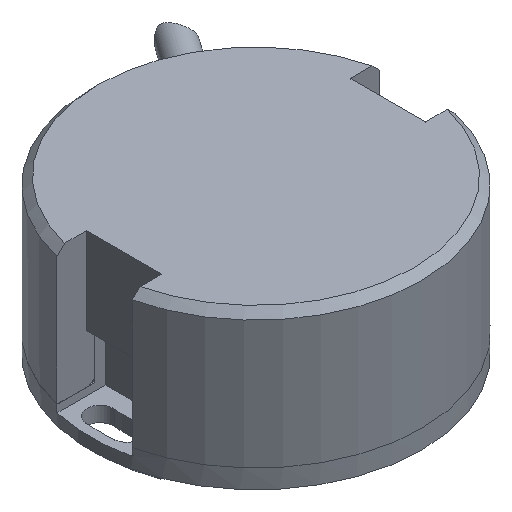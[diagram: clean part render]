
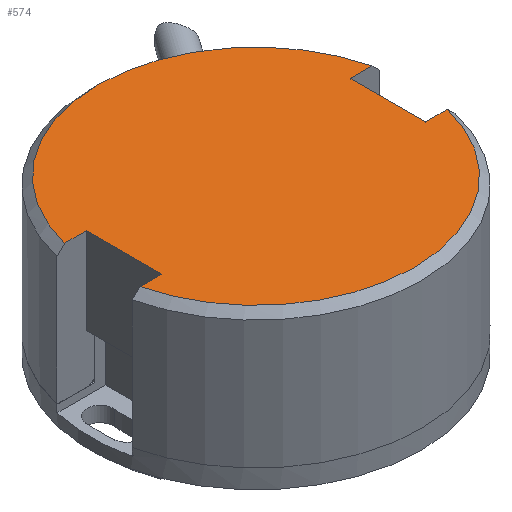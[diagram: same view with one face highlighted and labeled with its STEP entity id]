
A CAD part, isometric view. The second image highlights one B-rep face of the part: STEP entity #574.
In plain terms, the highlighted planar face has unit normal (0, 0, 1) as drawn and (-1, 0, 0) by its records, which use the part's own axes.
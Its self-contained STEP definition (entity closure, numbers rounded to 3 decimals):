
#574=ADVANCED_FACE('',(#1046),#1047,.T.);
#1046=FACE_OUTER_BOUND('',#1546,.T.);
#1047=PLANE('',#1547);
#1546=EDGE_LOOP('',(#2451,#2452,#2453,#2454,#2455,#2456,#2457,#2458));
#1547=AXIS2_PLACEMENT_3D('',#2459,#2460,#2461);
#2451=ORIENTED_EDGE('',*,*,#3327,.F.);
#2452=ORIENTED_EDGE('',*,*,#3328,.T.);
#2453=ORIENTED_EDGE('',*,*,#3329,.F.);
#2454=ORIENTED_EDGE('',*,*,#3330,.F.);
#2455=ORIENTED_EDGE('',*,*,#3331,.F.);
#2456=ORIENTED_EDGE('',*,*,#3332,.T.);
#2457=ORIENTED_EDGE('',*,*,#3333,.F.);
#2458=ORIENTED_EDGE('',*,*,#3334,.F.);
#2459=CARTESIAN_POINT('',(-18.0,-11.0,0.0));
#2460=DIRECTION('',(-1.0,0.0,0.0));
#2461=DIRECTION('',(0.0,0.0,1.0));
#3327=EDGE_CURVE('',#3969,#3970,#3971,.T.);
#3328=EDGE_CURVE('',#3969,#3972,#3973,.T.);
#3329=EDGE_CURVE('',#3974,#3972,#3975,.T.);
#3330=EDGE_CURVE('',#3976,#3974,#3977,.T.);
#3331=EDGE_CURVE('',#3978,#3976,#3979,.T.);
#3332=EDGE_CURVE('',#3978,#3980,#3981,.T.);
#3333=EDGE_CURVE('',#3982,#3980,#3983,.T.);
#3334=EDGE_CURVE('',#3970,#3982,#3984,.T.);
#3969=VERTEX_POINT('',#5004);
#3970=VERTEX_POINT('',#5005);
#3971=LINE('',#5006,#5007);
#3972=VERTEX_POINT('',#5008);
#3973=CIRCLE('',#5009,21.0);
#3974=VERTEX_POINT('',#5010);
#3975=LINE('',#5011,#5012);
#3976=VERTEX_POINT('',#5013);
#3977=LINE('',#5014,#5015);
#3978=VERTEX_POINT('',#5016);
#3979=LINE('',#5017,#5018);
#3980=VERTEX_POINT('',#5019);
#3981=CIRCLE('',#5020,21.0);
#3982=VERTEX_POINT('',#5021);
#3983=LINE('',#5022,#5023);
#3984=LINE('',#5024,#5025);
#5004=CARTESIAN_POINT('',(-18.0,-20.396,5.0));
#5005=CARTESIAN_POINT('',(-18.0,-17.5,5.0));
#5006=CARTESIAN_POINT('',(-18.0,-19.462,5.0));
#5007=VECTOR('',#5865,1.0);
#5008=CARTESIAN_POINT('',(-18.0,20.396,5.0));
#5009=AXIS2_PLACEMENT_3D('',#5866,#5867,#5868);
#5010=CARTESIAN_POINT('',(-18.0,17.5,5.0));
#5011=CARTESIAN_POINT('',(-18.0,19.462,5.0));
#5012=VECTOR('',#5869,1.0);
#5013=CARTESIAN_POINT('',(-18.0,17.5,-5.0));
#5014=CARTESIAN_POINT('',(-18.0,17.5,0.));
#5015=VECTOR('',#5870,1.0);
#5016=CARTESIAN_POINT('',(-18.0,20.396,-5.0));
#5017=CARTESIAN_POINT('',(-18.0,19.462,-5.0));
#5018=VECTOR('',#5871,1.0);
#5019=CARTESIAN_POINT('',(-18.0,-20.396,-5.0));
#5020=AXIS2_PLACEMENT_3D('',#5872,#5873,#5874);
#5021=CARTESIAN_POINT('',(-18.0,-17.5,-5.0));
#5022=CARTESIAN_POINT('',(-18.0,-19.462,-5.0));
#5023=VECTOR('',#5875,1.0);
#5024=CARTESIAN_POINT('',(-18.0,-17.5,0.));
#5025=VECTOR('',#5876,1.0);
#5865=DIRECTION('',(0.0,1.0,0.));
#5866=CARTESIAN_POINT('',(-18.0,0.0,0.0));
#5867=DIRECTION('',(-1.0,0.0,0.0));
#5868=DIRECTION('',(0.0,0.0,1.0));
#5869=DIRECTION('',(0.0,1.0,0.));
#5870=DIRECTION('',(0.0,0.,1.0));
#5871=DIRECTION('',(0.0,-1.0,0.0));
#5872=CARTESIAN_POINT('',(-18.0,0.0,0.0));
#5873=DIRECTION('',(-1.0,0.0,0.0));
#5874=DIRECTION('',(0.0,0.0,1.0));
#5875=DIRECTION('',(0.0,-1.0,0.0));
#5876=DIRECTION('',(0.0,0.,-1.0));
